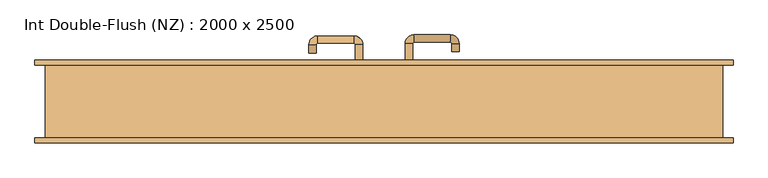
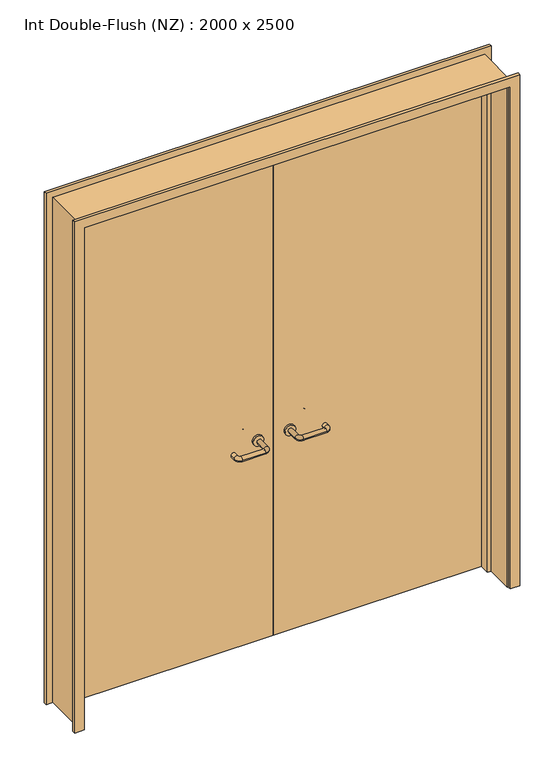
"""IFC4 building model written with IfcOpenShell, lengths in millimetres: door geometry, Int Double-Flush (NZ) : 2000 x 2500."""

from ifc_helpers import new_model, si_unit, point, frame, frame_2d, origin, place, context, project, spatial, polyline, circle_curve, ellipse_curve, trimmed, segment, composite_curve, outline, extrude, faceted_brep, source, transform, mapped, element, save
from ifc_brep_helpers import plane_surface, cylinder_surface, revolved_surface, advanced_brep


def int_double_flush_nz_2000_x_2500_d3729d4c(model_context):
    return source(origin(), model_context, "Body", "SolidModel", [
        extrude(outline(polyline([(2519.0, -1019.0), (0.0, -1019.0), (0.0, -1000.0), (2500.0, -1000.0), (2500.0, 1000.0), (0.0, 1000.0), (0.0, 1019.0), (2519.0, 1019.0), (2519.0, -1019.0)])), frame((0.0, -110.0, 0.0), z_axis=(0.0, 1.0, 0.0), x_axis=(0.0, 0.0, 1.0)), (0.0, 0.0, 1.0), 220.0),
        faceted_brep([(-983.2857143, 69.0, 0.0), (-983.2857143, 24.0, 0.0), (-1000.0, 24.0, 0.0), (-1000.0, 69.0, 0.0), (-983.2857143, 69.0, 2483.2857143), (-983.2857143, 24.0, 2483.2857143), (-1000.0, 24.0, 2500.0), (-1000.0, 69.0, 2500.0), (983.2857143, 69.0, 0.0), (1000.0, 69.0, 0.0), (1000.0, 24.0, 0.0), (983.2857143, 24.0, 0.0), (983.2857143, 69.0, 2483.2857143), (1000.0, 69.0, 2500.0), (1000.0, 24.0, 2500.0), (983.2857143, 24.0, 2483.2857143)], [[[0, 1, 2, 3]], [[1, 0, 4, 5]], [[2, 1, 5, 6]], [[3, 2, 6, 7]], [[0, 3, 7, 4]], [[8, 9, 10, 11]], [[12, 13, 9, 8]], [[13, 14, 10, 9]], [[14, 15, 11, 10]], [[15, 12, 8, 11]], [[5, 4, 12, 15]], [[6, 5, 15, 14]], [[7, 6, 14, 13]], [[4, 7, 13, 12]]]),
        extrude(outline(polyline([(2550.0, 1050.0), (2550.0, -1050.0), (0.0, -1050.0), (0.0, -1005.0), (2505.0, -1005.0), (2505.0, 1005.0), (0.0, 1005.0), (0.0, 1050.0), (2550.0, 1050.0)])), frame((0.0, 110.0, 0.0), z_axis=(0.0, 1.0, 0.0), x_axis=(0.0, 0.0, 1.0)), (0.0, 0.0, 1.0), 15.0),
        extrude(outline(polyline([(2550.0, -1050.0), (0.0, -1050.0), (0.0, -1005.0), (2505.0, -1005.0), (2505.0, 1005.0), (0.0, 1005.0), (0.0, 1050.0), (2550.0, 1050.0), (2550.0, -1050.0)])), frame((0.0, -125.0, 0.0), z_axis=(0.0, 1.0, 0.0), x_axis=(0.0, 0.0, 1.0)), (0.0, 0.0, 1.0), 15.0),
        extrude(outline(polyline([(-0.9250294, 72.0), (-997.0, 72.0), (-997.0, 110.0), (-0.9250294, 110.0), (-0.9250294, 72.0)])), frame((0.0, 0.0, 1.753223), z_axis=(0.0, 0.0, 1.0), x_axis=(1.0, 0.0, 0.0)), (0.0, 0.0, 1.0), 2495.246777),
        extrude(outline(polyline([(997.0, 72.0), (-0.9250294, 72.0), (-0.9250294, 110.0), (997.0, 110.0), (997.0, 72.0)])), frame((0.0, 0.0, 1.753223), z_axis=(0.0, 0.0, 1.0), x_axis=(1.0, 0.0, 0.0)), (0.0, 0.0, 1.0), 2495.246777),
        extrude(outline(polyline([(2519.0, -1019.0), (0.0, -1019.0), (0.0, -1000.0), (2500.0, -1000.0), (2500.0, 1000.0), (0.0, 1000.0), (0.0, 1019.0), (2519.0, 1019.0), (2519.0, -1019.0)])), frame((0.0, -110.0, 0.0), z_axis=(0.0, 1.0, 0.0), x_axis=(0.0, 0.0, 1.0)), (0.0, 0.0, 1.0), 220.0),
        advanced_brep(
        [(64.0, 62.0, 1003.0), (86.0, 62.0, 1003.0), (64.0, 6.6474631, 1003.0), (86.0, 6.6474631, 1003.0), (90.0, 2.6474631, 1003.0), (90.0, -19.3525369, 1003.0), (200.0, -19.3525369, 1003.0), (200.0, 2.6474631, 1003.0), (204.0, 6.6474631, 1003.0), (226.0, 6.6474631, 1003.0), (226.0, 24.0, 1003.0), (204.0, 24.0, 1003.0)],
        [
            (0, 1, circle_curve(frame((75.0, 62.0, 1003.0), z_axis=(0.0, 1.0, 0.0), x_axis=(1.0, 0.0, 0.0)), 11.0)),
            (1, 0, circle_curve(frame((75.0, 62.0, 1003.0), z_axis=(0.0, 1.0, 0.0), x_axis=(1.0, 0.0, 0.0)), 11.0)),
            (0, 2),
            (2, 3, circle_curve(frame((75.0, 6.6474631, 1003.0), z_axis=(0.0, 1.0, 0.0), x_axis=(1.0, 0.0, 0.0)), 11.0)),
            (3, 1),
            (3, 2, circle_curve(frame((75.0, 6.6474631, 1003.0), z_axis=(0.0, 1.0, 0.0), x_axis=(1.0, 0.0, 0.0)), 11.0)),
            (4, 3, circle_curve(frame((90.0, 6.6474631, 1003.0), z_axis=(0.0, 0.0, -1.0), x_axis=(-1.0, 0.0, 0.0)), 4.0)),
            (2, 5, circle_curve(frame((90.0, 6.6474631, 1003.0), z_axis=(0.0, 0.0, 1.0), x_axis=(-1.0, 0.0, 0.0)), 26.0)),
            (5, 4, circle_curve(frame((90.0, -8.3525369, 1003.0), z_axis=(-1.0, 0.0, 0.0), x_axis=(0.0, 1.0, 0.0)), 11.0)),
            (4, 5, circle_curve(frame((90.0, -8.3525369, 1003.0), z_axis=(-1.0, 0.0, 0.0), x_axis=(0.0, 1.0, 0.0)), 11.0)),
            (5, 6),
            (6, 7, circle_curve(frame((200.0, -8.3525369, 1003.0), z_axis=(-1.0, 0.0, 0.0), x_axis=(0.0, 1.0, 0.0)), 11.0)),
            (7, 4),
            (7, 6, circle_curve(frame((200.0, -8.3525369, 1003.0), z_axis=(-1.0, 0.0, 0.0), x_axis=(0.0, 1.0, 0.0)), 11.0)),
            (8, 7, circle_curve(frame((200.0, 6.6474631, 1003.0), z_axis=(0.0, 0.0, -1.0), x_axis=(0.0, -1.0, 0.0)), 4.0)),
            (6, 9, circle_curve(frame((200.0, 6.6474631, 1003.0), z_axis=(0.0, 0.0, 1.0), x_axis=(0.0, -1.0, 0.0)), 26.0)),
            (9, 8, circle_curve(frame((215.0, 6.6474631, 1003.0), z_axis=(0.0, -1.0, 0.0), x_axis=(-1.0, 0.0, 0.0)), 11.0)),
            (8, 9, circle_curve(frame((215.0, 6.6474631, 1003.0), z_axis=(0.0, -1.0, 0.0), x_axis=(-1.0, 0.0, 0.0)), 11.0)),
            (10, 11, circle_curve(frame((215.0, 24.0, 1003.0), z_axis=(0.0, 1.0, 0.0), x_axis=(-1.0, 0.0, 0.0)), 11.0)),
            (11, 10, circle_curve(frame((215.0, 24.0, 1003.0), z_axis=(0.0, 1.0, 0.0), x_axis=(-1.0, 0.0, 0.0)), 11.0)),
            (9, 10),
            (11, 8),
        ],
        [
            plane_surface(frame((64.0, 62.0, 1003.0), z_axis=(0.0, 1.0, 0.0), x_axis=(0.0, 0.0, -1.0))),
            cylinder_surface(frame((75.0, 62.0, 1003.0), z_axis=(0.0, 1.0, 0.0), x_axis=(1.0, 0.0, 0.0)), 11.0),
            revolved_surface(trimmed(ellipse_curve(frame((75.0, 6.6474631, 1003.0), z_axis=(0.0, 1.0, 0.0), x_axis=(1.0, 0.0, 0.0)), 11.0, 11.0), [point((64.0, 6.6474631, 1003.0))], [point((86.0, 6.6474631, 1003.0))], True, "CARTESIAN"), (90.0, 6.6474631, 1003.0), (0.0, 0.0, 1.0)),
            revolved_surface(trimmed(ellipse_curve(frame((75.0, 6.6474631, 1003.0), z_axis=(0.0, 1.0, 0.0), x_axis=(1.0, 0.0, 0.0)), 11.0, 11.0), [point((86.0, 6.6474631, 1003.0))], [point((64.0, 6.6474631, 1003.0))], True, "CARTESIAN"), (90.0, 6.6474631, 1003.0), (0.0, 0.0, 1.0)),
            cylinder_surface(frame((90.0, -8.3525369, 1003.0), z_axis=(-1.0, 0.0, 0.0), x_axis=(0.0, 1.0, 0.0)), 11.0),
            revolved_surface(trimmed(ellipse_curve(frame((200.0, -8.3525369, 1003.0), z_axis=(-1.0, 0.0, 0.0), x_axis=(0.0, 1.0, 0.0)), 11.0, 11.0), [point((200.0, -19.3525369, 1003.0))], [point((200.0, 2.6474631, 1003.0))], True, "CARTESIAN"), (200.0, 6.6474631, 1003.0), (0.0, 0.0, 1.0)),
            revolved_surface(trimmed(ellipse_curve(frame((200.0, -8.3525369, 1003.0), z_axis=(-1.0, 0.0, 0.0), x_axis=(0.0, 1.0, 0.0)), 11.0, 11.0), [point((200.0, 2.6474631, 1003.0))], [point((200.0, -19.3525369, 1003.0))], True, "CARTESIAN"), (200.0, 6.6474631, 1003.0), (0.0, 0.0, 1.0)),
            plane_surface(frame((204.0, 24.0, 1003.0), z_axis=(0.0, 1.0, 0.0), x_axis=(0.0, 0.0, 1.0))),
            cylinder_surface(frame((215.0, 6.6474631, 1003.0), z_axis=(0.0, -1.0, 0.0), x_axis=(-1.0, 0.0, 0.0)), 11.0),
        ],
        [
            (0, [[1, 2]]),
            (1, [[-1, 3, 4, 5]]),
            (1, [[-2, -5, 6, -3]]),
            (2, [[7, -4, 8, 9]]),
            (3, [[-8, -6, -7, 10]]),
            (4, [[-9, 11, 12, 13]]),
            (4, [[-10, -13, 14, -11]]),
            (5, [[15, -12, 16, 17]]),
            (6, [[-16, -14, -15, 18]]),
            (7, [[19, 20]]),
            (8, [[-17, 21, -20, 22]]),
            (8, [[-18, -22, -19, -21]]),
        ],
    ),
        extrude(outline(composite_curve([segment(trimmed(circle_curve(frame_2d((1003.0, 75.0)), 25.0), [point((1003.0, 50.0))], [point((1003.0, 100.0))], False, "CARTESIAN"), True, "CONTINUOUS"), segment(trimmed(circle_curve(frame_2d((1003.0, 75.0)), 25.0), [point((1003.0, 100.0))], [point((1003.0, 50.0))], False, "CARTESIAN"), True, "CONTINUOUS")], self_intersect=False)), frame((0.0, 62.0, 0.0), z_axis=(0.0, 1.0, 0.0), x_axis=(0.0, 0.0, 1.0)), (0.0, 0.0, 1.0), 10.0),
        advanced_brep(
        [(86.0, 120.0, 1003.0), (64.0, 120.0, 1003.0), (86.0, 175.0, 1003.0), (64.0, 175.0, 1003.0), (90.0, 201.0, 1003.0), (90.0, 179.0, 1003.0), (200.0, 179.0, 1003.0), (200.0, 201.0, 1003.0), (226.0, 175.0, 1003.0), (204.0, 175.0, 1003.0), (204.0, 150.0, 1003.0), (226.0, 150.0, 1003.0)],
        [
            (0, 1, circle_curve(frame((75.0, 120.0, 1003.0), z_axis=(0.0, -1.0, 0.0), x_axis=(-1.0, 0.0, 0.0)), 11.0)),
            (1, 0, circle_curve(frame((75.0, 120.0, 1003.0), z_axis=(0.0, -1.0, 0.0), x_axis=(-1.0, 0.0, 0.0)), 11.0)),
            (0, 2),
            (2, 3, circle_curve(frame((75.0, 175.0, 1003.0), z_axis=(0.0, -1.0, 0.0), x_axis=(-1.0, 0.0, 0.0)), 11.0)),
            (3, 1),
            (3, 2, circle_curve(frame((75.0, 175.0, 1003.0), z_axis=(0.0, -1.0, 0.0), x_axis=(-1.0, 0.0, 0.0)), 11.0)),
            (4, 3, circle_curve(frame((90.0, 175.0, 1003.0), z_axis=(0.0, 0.0, 1.0), x_axis=(-1.0, 0.0, 0.0)), 26.0)),
            (2, 5, circle_curve(frame((90.0, 175.0, 1003.0), z_axis=(0.0, 0.0, -1.0), x_axis=(-1.0, 0.0, 0.0)), 4.0)),
            (5, 4, circle_curve(frame((90.0, 190.0, 1003.0), z_axis=(-1.0, 0.0, 0.0), x_axis=(0.0, 1.0, 0.0)), 11.0)),
            (4, 5, circle_curve(frame((90.0, 190.0, 1003.0), z_axis=(-1.0, 0.0, 0.0), x_axis=(0.0, 1.0, 0.0)), 11.0)),
            (5, 6),
            (6, 7, circle_curve(frame((200.0, 190.0, 1003.0), z_axis=(-1.0, 0.0, 0.0), x_axis=(0.0, 1.0, 0.0)), 11.0)),
            (7, 4),
            (7, 6, circle_curve(frame((200.0, 190.0, 1003.0), z_axis=(-1.0, 0.0, 0.0), x_axis=(0.0, 1.0, 0.0)), 11.0)),
            (8, 7, circle_curve(frame((200.0, 175.0, 1003.0), z_axis=(0.0, 0.0, 1.0), x_axis=(0.0, 1.0, 0.0)), 26.0)),
            (6, 9, circle_curve(frame((200.0, 175.0, 1003.0), z_axis=(0.0, 0.0, -1.0), x_axis=(0.0, 1.0, 0.0)), 4.0)),
            (9, 8, circle_curve(frame((215.0, 175.0, 1003.0), z_axis=(0.0, 1.0, 0.0), x_axis=(1.0, 0.0, 0.0)), 11.0)),
            (8, 9, circle_curve(frame((215.0, 175.0, 1003.0), z_axis=(0.0, 1.0, 0.0), x_axis=(1.0, 0.0, 0.0)), 11.0)),
            (10, 11, circle_curve(frame((215.0, 150.0, 1003.0), z_axis=(0.0, -1.0, 0.0), x_axis=(1.0, 0.0, 0.0)), 11.0)),
            (11, 10, circle_curve(frame((215.0, 150.0, 1003.0), z_axis=(0.0, -1.0, 0.0), x_axis=(1.0, 0.0, 0.0)), 11.0)),
            (9, 10),
            (11, 8),
        ],
        [
            plane_surface(frame((64.0, 120.0, 1003.0), z_axis=(0.0, -1.0, 0.0), x_axis=(0.0, 0.0, 1.0))),
            cylinder_surface(frame((75.0, 120.0, 1003.0), z_axis=(0.0, -1.0, 0.0), x_axis=(-1.0, 0.0, 0.0)), 11.0),
            revolved_surface(trimmed(ellipse_curve(frame((75.0, 175.0, 1003.0), z_axis=(0.0, -1.0, 0.0), x_axis=(-1.0, 0.0, 0.0)), 11.0, 11.0), [point((86.0, 175.0, 1003.0))], [point((64.0, 175.0, 1003.0))], True, "CARTESIAN"), (90.0, 175.0, 1003.0), (0.0, 0.0, -1.0)),
            revolved_surface(trimmed(ellipse_curve(frame((75.0, 175.0, 1003.0), z_axis=(0.0, -1.0, 0.0), x_axis=(-1.0, 0.0, 0.0)), 11.0, 11.0), [point((64.0, 175.0, 1003.0))], [point((86.0, 175.0, 1003.0))], True, "CARTESIAN"), (90.0, 175.0, 1003.0), (0.0, 0.0, -1.0)),
            cylinder_surface(frame((90.0, 190.0, 1003.0), z_axis=(-1.0, 0.0, 0.0), x_axis=(0.0, 1.0, 0.0)), 11.0),
            revolved_surface(trimmed(ellipse_curve(frame((200.0, 190.0, 1003.0), z_axis=(-1.0, 0.0, 0.0), x_axis=(0.0, 1.0, 0.0)), 11.0, 11.0), [point((200.0, 179.0, 1003.0))], [point((200.0, 201.0, 1003.0))], True, "CARTESIAN"), (200.0, 175.0, 1003.0), (0.0, 0.0, -1.0)),
            revolved_surface(trimmed(ellipse_curve(frame((200.0, 190.0, 1003.0), z_axis=(-1.0, 0.0, 0.0), x_axis=(0.0, 1.0, 0.0)), 11.0, 11.0), [point((200.0, 201.0, 1003.0))], [point((200.0, 179.0, 1003.0))], True, "CARTESIAN"), (200.0, 175.0, 1003.0), (0.0, 0.0, -1.0)),
            plane_surface(frame((204.0, 150.0, 1003.0), z_axis=(0.0, -1.0, 0.0), x_axis=(0.0, 0.0, -1.0))),
            cylinder_surface(frame((215.0, 175.0, 1003.0), z_axis=(0.0, 1.0, 0.0), x_axis=(1.0, 0.0, 0.0)), 11.0),
        ],
        [
            (0, [[1, 2]]),
            (1, [[-1, 3, 4, 5]]),
            (1, [[-2, -5, 6, -3]]),
            (2, [[7, -4, 8, 9]]),
            (3, [[-8, -6, -7, 10]]),
            (4, [[-9, 11, 12, 13]]),
            (4, [[-10, -13, 14, -11]]),
            (5, [[15, -12, 16, 17]]),
            (6, [[-16, -14, -15, 18]]),
            (7, [[19, 20]]),
            (8, [[-17, 21, -20, 22]]),
            (8, [[-18, -22, -19, -21]]),
        ],
    ),
        extrude(outline(composite_curve([segment(trimmed(circle_curve(frame_2d((1003.0, 75.0)), 25.0), [point((1003.0, 100.0))], [point((1003.0, 50.0))], False, "CARTESIAN"), True, "CONTINUOUS"), segment(trimmed(circle_curve(frame_2d((1003.0, 75.0)), 25.0), [point((1003.0, 50.0))], [point((1003.0, 100.0))], False, "CARTESIAN"), True, "CONTINUOUS")], self_intersect=False)), frame((0.0, 110.0, 0.0), z_axis=(0.0, 1.0, 0.0), x_axis=(0.0, 0.0, 1.0)), (0.0, 0.0, 1.0), 10.0),
        advanced_brep(
        [(-86.0, 55.6886121, 1003.0), (-64.0, 55.6886121, 1003.0), (-86.0, 0.2779553, 1003.0), (-64.0, 0.2779553, 1003.0), (-90.0, -25.7220447, 1003.0), (-90.0, -3.7220447, 1003.0), (-200.0, -3.7220447, 1003.0), (-200.0, -25.7220447, 1003.0), (-226.0, 0.2779553, 1003.0), (-204.0, 0.2779553, 1003.0), (-204.0, 25.2779553, 1003.0), (-226.0, 25.2779553, 1003.0)],
        [
            (0, 1, circle_curve(frame((-75.0, 55.6886121, 1003.0), z_axis=(0.0, 1.0, 0.0), x_axis=(1.0, 0.0, 0.0)), 11.0)),
            (1, 0, circle_curve(frame((-75.0, 55.6886121, 1003.0), z_axis=(0.0, 1.0, 0.0), x_axis=(1.0, 0.0, 0.0)), 11.0)),
            (0, 2),
            (2, 3, circle_curve(frame((-75.0, 0.2779553, 1003.0), z_axis=(0.0, 1.0, 0.0), x_axis=(1.0, 0.0, 0.0)), 11.0)),
            (3, 1),
            (3, 2, circle_curve(frame((-75.0, 0.2779553, 1003.0), z_axis=(0.0, 1.0, 0.0), x_axis=(1.0, 0.0, 0.0)), 11.0)),
            (4, 3, circle_curve(frame((-90.0, 0.2779553, 1003.0), z_axis=(0.0, 0.0, 1.0), x_axis=(1.0, 0.0, 0.0)), 26.0)),
            (2, 5, circle_curve(frame((-90.0, 0.2779553, 1003.0), z_axis=(0.0, 0.0, -1.0), x_axis=(1.0, 0.0, 0.0)), 4.0)),
            (5, 4, circle_curve(frame((-90.0, -14.7220447, 1003.0), z_axis=(1.0, 0.0, 0.0), x_axis=(0.0, -1.0, 0.0)), 11.0)),
            (4, 5, circle_curve(frame((-90.0, -14.7220447, 1003.0), z_axis=(1.0, 0.0, 0.0), x_axis=(0.0, -1.0, 0.0)), 11.0)),
            (5, 6),
            (6, 7, circle_curve(frame((-200.0, -14.7220447, 1003.0), z_axis=(1.0, 0.0, 0.0), x_axis=(0.0, -1.0, 0.0)), 11.0)),
            (7, 4),
            (7, 6, circle_curve(frame((-200.0, -14.7220447, 1003.0), z_axis=(1.0, 0.0, 0.0), x_axis=(0.0, -1.0, 0.0)), 11.0)),
            (8, 7, circle_curve(frame((-200.0, 0.2779553, 1003.0), z_axis=(0.0, 0.0, 1.0), x_axis=(0.0, -1.0, 0.0)), 26.0)),
            (6, 9, circle_curve(frame((-200.0, 0.2779553, 1003.0), z_axis=(0.0, 0.0, -1.0), x_axis=(0.0, -1.0, 0.0)), 4.0)),
            (9, 8, circle_curve(frame((-215.0, 0.2779553, 1003.0), z_axis=(0.0, -1.0, 0.0), x_axis=(-1.0, 0.0, 0.0)), 11.0)),
            (8, 9, circle_curve(frame((-215.0, 0.2779553, 1003.0), z_axis=(0.0, -1.0, 0.0), x_axis=(-1.0, 0.0, 0.0)), 11.0)),
            (10, 11, circle_curve(frame((-215.0, 25.2779553, 1003.0), z_axis=(0.0, 1.0, 0.0), x_axis=(-1.0, 0.0, 0.0)), 11.0)),
            (11, 10, circle_curve(frame((-215.0, 25.2779553, 1003.0), z_axis=(0.0, 1.0, 0.0), x_axis=(-1.0, 0.0, 0.0)), 11.0)),
            (9, 10),
            (11, 8),
        ],
        [
            plane_surface(frame((-86.0, 55.6886121, 1003.0), z_axis=(0.0, 1.0, 0.0), x_axis=(0.0, 0.0, -1.0))),
            cylinder_surface(frame((-75.0, 55.6886121, 1003.0), z_axis=(0.0, 1.0, 0.0), x_axis=(1.0, 0.0, 0.0)), 11.0),
            revolved_surface(trimmed(ellipse_curve(frame((-75.0, 0.2779553, 1003.0), z_axis=(0.0, 1.0, 0.0), x_axis=(1.0, 0.0, 0.0)), 11.0, 11.0), [point((-86.0, 0.2779553, 1003.0))], [point((-64.0, 0.2779553, 1003.0))], True, "CARTESIAN"), (-90.0, 0.2779553, 1003.0), (0.0, 0.0, -1.0)),
            revolved_surface(trimmed(ellipse_curve(frame((-75.0, 0.2779553, 1003.0), z_axis=(0.0, 1.0, 0.0), x_axis=(1.0, 0.0, 0.0)), 11.0, 11.0), [point((-64.0, 0.2779553, 1003.0))], [point((-86.0, 0.2779553, 1003.0))], True, "CARTESIAN"), (-90.0, 0.2779553, 1003.0), (0.0, 0.0, -1.0)),
            cylinder_surface(frame((-90.0, -14.7220447, 1003.0), z_axis=(1.0, 0.0, 0.0), x_axis=(0.0, -1.0, 0.0)), 11.0),
            revolved_surface(trimmed(ellipse_curve(frame((-200.0, -14.7220447, 1003.0), z_axis=(1.0, 0.0, 0.0), x_axis=(0.0, -1.0, 0.0)), 11.0, 11.0), [point((-200.0, -3.7220447, 1003.0))], [point((-200.0, -25.7220447, 1003.0))], True, "CARTESIAN"), (-200.0, 0.2779553, 1003.0), (0.0, 0.0, -1.0)),
            revolved_surface(trimmed(ellipse_curve(frame((-200.0, -14.7220447, 1003.0), z_axis=(1.0, 0.0, 0.0), x_axis=(0.0, -1.0, 0.0)), 11.0, 11.0), [point((-200.0, -25.7220447, 1003.0))], [point((-200.0, -3.7220447, 1003.0))], True, "CARTESIAN"), (-200.0, 0.2779553, 1003.0), (0.0, 0.0, -1.0)),
            plane_surface(frame((-226.0, 25.2779553, 1003.0), z_axis=(0.0, 1.0, 0.0), x_axis=(0.0, 0.0, 1.0))),
            cylinder_surface(frame((-215.0, 0.2779553, 1003.0), z_axis=(0.0, -1.0, 0.0), x_axis=(-1.0, 0.0, 0.0)), 11.0),
        ],
        [
            (0, [[1, 2]]),
            (1, [[-1, 3, 4, 5]]),
            (1, [[-2, -5, 6, -3]]),
            (2, [[7, -4, 8, 9]]),
            (3, [[-8, -6, -7, 10]]),
            (4, [[-9, 11, 12, 13]]),
            (4, [[-10, -13, 14, -11]]),
            (5, [[15, -12, 16, 17]]),
            (6, [[-16, -14, -15, 18]]),
            (7, [[19, 20]]),
            (8, [[-17, 21, -20, 22]]),
            (8, [[-18, -22, -19, -21]]),
        ],
    ),
        extrude(outline(composite_curve([segment(trimmed(circle_curve(frame_2d((1003.0, -75.0)), 25.0), [point((1003.0, -100.0))], [point((1003.0, -50.0))], False, "CARTESIAN"), True, "CONTINUOUS"), segment(trimmed(circle_curve(frame_2d((1003.0, -75.0)), 25.0), [point((1003.0, -50.0))], [point((1003.0, -100.0))], False, "CARTESIAN"), True, "CONTINUOUS")], self_intersect=False)), frame((0.0, 61.6886121, 0.0), z_axis=(0.0, 1.0, 0.0), x_axis=(0.0, 0.0, 1.0)), (0.0, 0.0, 1.0), 10.3113879),
        advanced_brep(
        [(-64.0, 116.5143417, 1003.0), (-86.0, 116.5143417, 1003.0), (-64.0, 171.6104656, 1003.0), (-86.0, 171.6104656, 1003.0), (-90.0, 175.6104656, 1003.0), (-90.0, 197.6104656, 1003.0), (-200.0, 197.6104656, 1003.0), (-200.0, 175.6104656, 1003.0), (-204.0, 171.6104656, 1003.0), (-226.0, 171.6104656, 1003.0), (-226.0, 146.6104656, 1003.0), (-204.0, 146.6104656, 1003.0)],
        [
            (0, 1, circle_curve(frame((-75.0, 116.5143417, 1003.0), z_axis=(0.0, -1.0, 0.0), x_axis=(-1.0, 0.0, 0.0)), 11.0)),
            (1, 0, circle_curve(frame((-75.0, 116.5143417, 1003.0), z_axis=(0.0, -1.0, 0.0), x_axis=(-1.0, 0.0, 0.0)), 11.0)),
            (0, 2),
            (2, 3, circle_curve(frame((-75.0, 171.6104656, 1003.0), z_axis=(0.0, -1.0, 0.0), x_axis=(-1.0, 0.0, 0.0)), 11.0)),
            (3, 1),
            (3, 2, circle_curve(frame((-75.0, 171.6104656, 1003.0), z_axis=(0.0, -1.0, 0.0), x_axis=(-1.0, 0.0, 0.0)), 11.0)),
            (4, 3, circle_curve(frame((-90.0, 171.6104656, 1003.0), z_axis=(0.0, 0.0, -1.0), x_axis=(1.0, 0.0, 0.0)), 4.0)),
            (2, 5, circle_curve(frame((-90.0, 171.6104656, 1003.0), z_axis=(0.0, 0.0, 1.0), x_axis=(1.0, 0.0, 0.0)), 26.0)),
            (5, 4, circle_curve(frame((-90.0, 186.6104656, 1003.0), z_axis=(1.0, 0.0, 0.0), x_axis=(0.0, -1.0, 0.0)), 11.0)),
            (4, 5, circle_curve(frame((-90.0, 186.6104656, 1003.0), z_axis=(1.0, 0.0, 0.0), x_axis=(0.0, -1.0, 0.0)), 11.0)),
            (5, 6),
            (6, 7, circle_curve(frame((-200.0, 186.6104656, 1003.0), z_axis=(1.0, 0.0, 0.0), x_axis=(0.0, -1.0, 0.0)), 11.0)),
            (7, 4),
            (7, 6, circle_curve(frame((-200.0, 186.6104656, 1003.0), z_axis=(1.0, 0.0, 0.0), x_axis=(0.0, -1.0, 0.0)), 11.0)),
            (8, 7, circle_curve(frame((-200.0, 171.6104656, 1003.0), z_axis=(0.0, 0.0, -1.0), x_axis=(0.0, 1.0, 0.0)), 4.0)),
            (6, 9, circle_curve(frame((-200.0, 171.6104656, 1003.0), z_axis=(0.0, 0.0, 1.0), x_axis=(0.0, 1.0, 0.0)), 26.0)),
            (9, 8, circle_curve(frame((-215.0, 171.6104656, 1003.0), z_axis=(0.0, 1.0, 0.0), x_axis=(1.0, 0.0, 0.0)), 11.0)),
            (8, 9, circle_curve(frame((-215.0, 171.6104656, 1003.0), z_axis=(0.0, 1.0, 0.0), x_axis=(1.0, 0.0, 0.0)), 11.0)),
            (10, 11, circle_curve(frame((-215.0, 146.6104656, 1003.0), z_axis=(0.0, -1.0, 0.0), x_axis=(1.0, 0.0, 0.0)), 11.0)),
            (11, 10, circle_curve(frame((-215.0, 146.6104656, 1003.0), z_axis=(0.0, -1.0, 0.0), x_axis=(1.0, 0.0, 0.0)), 11.0)),
            (9, 10),
            (11, 8),
        ],
        [
            plane_surface(frame((-86.0, 116.5143417, 1003.0), z_axis=(0.0, -1.0, 0.0), x_axis=(0.0, 0.0, 1.0))),
            cylinder_surface(frame((-75.0, 116.5143417, 1003.0), z_axis=(0.0, -1.0, 0.0), x_axis=(-1.0, 0.0, 0.0)), 11.0),
            revolved_surface(trimmed(ellipse_curve(frame((-75.0, 171.6104656, 1003.0), z_axis=(0.0, -1.0, 0.0), x_axis=(-1.0, 0.0, 0.0)), 11.0, 11.0), [point((-64.0, 171.6104656, 1003.0))], [point((-86.0, 171.6104656, 1003.0))], True, "CARTESIAN"), (-90.0, 171.6104656, 1003.0), (0.0, 0.0, 1.0)),
            revolved_surface(trimmed(ellipse_curve(frame((-75.0, 171.6104656, 1003.0), z_axis=(0.0, -1.0, 0.0), x_axis=(-1.0, 0.0, 0.0)), 11.0, 11.0), [point((-86.0, 171.6104656, 1003.0))], [point((-64.0, 171.6104656, 1003.0))], True, "CARTESIAN"), (-90.0, 171.6104656, 1003.0), (0.0, 0.0, 1.0)),
            cylinder_surface(frame((-90.0, 186.6104656, 1003.0), z_axis=(1.0, 0.0, 0.0), x_axis=(0.0, -1.0, 0.0)), 11.0),
            revolved_surface(trimmed(ellipse_curve(frame((-200.0, 186.6104656, 1003.0), z_axis=(1.0, 0.0, 0.0), x_axis=(0.0, -1.0, 0.0)), 11.0, 11.0), [point((-200.0, 197.6104656, 1003.0))], [point((-200.0, 175.6104656, 1003.0))], True, "CARTESIAN"), (-200.0, 171.6104656, 1003.0), (0.0, 0.0, 1.0)),
            revolved_surface(trimmed(ellipse_curve(frame((-200.0, 186.6104656, 1003.0), z_axis=(1.0, 0.0, 0.0), x_axis=(0.0, -1.0, 0.0)), 11.0, 11.0), [point((-200.0, 175.6104656, 1003.0))], [point((-200.0, 197.6104656, 1003.0))], True, "CARTESIAN"), (-200.0, 171.6104656, 1003.0), (0.0, 0.0, 1.0)),
            plane_surface(frame((-226.0, 146.6104656, 1003.0), z_axis=(0.0, -1.0, 0.0), x_axis=(0.0, 0.0, -1.0))),
            cylinder_surface(frame((-215.0, 171.6104656, 1003.0), z_axis=(0.0, 1.0, 0.0), x_axis=(1.0, 0.0, 0.0)), 11.0),
        ],
        [
            (0, [[1, 2]]),
            (1, [[-1, 3, 4, 5]]),
            (1, [[-2, -5, 6, -3]]),
            (2, [[7, -4, 8, 9]]),
            (3, [[-8, -6, -7, 10]]),
            (4, [[-9, 11, 12, 13]]),
            (4, [[-10, -13, 14, -11]]),
            (5, [[15, -12, 16, 17]]),
            (6, [[-16, -14, -15, 18]]),
            (7, [[19, 20]]),
            (8, [[-17, 21, -20, 22]]),
            (8, [[-18, -22, -19, -21]]),
        ],
    ),
        extrude(outline(composite_curve([segment(trimmed(circle_curve(frame_2d((1003.0, -75.0)), 25.0), [point((1003.0, -50.0))], [point((1003.0, -100.0))], False, "CARTESIAN"), True, "CONTINUOUS"), segment(trimmed(circle_curve(frame_2d((1003.0, -75.0)), 25.0), [point((1003.0, -100.0))], [point((1003.0, -50.0))], False, "CARTESIAN"), True, "CONTINUOUS")], self_intersect=False)), frame((0.0, 110.0, 0.0), z_axis=(0.0, 1.0, 0.0), x_axis=(0.0, 0.0, 1.0)), (0.0, 0.0, 1.0), 9.5143417),
    ])


if __name__ == "__main__":
    model = new_model("IFC4")
    model_context = context("Model", 3, world=origin())
    ifc_project = project(units=[si_unit("LENGTHUNIT", "METRE", prefix="MILLI")], contexts=[model_context])
    site = spatial("IfcSite", under=ifc_project)
    building = spatial("IfcBuilding", under=site)
    placement = place(None, origin())
    int_double_flush_nz_2000_x_2500_shape = int_double_flush_nz_2000_x_2500_d3729d4c(model_context)
    element("IfcDoor", 1, ObjectType="Int Double-Flush (NZ) : 2000 x 2500", at=placement, inside=building, context=model_context, shape_type="MappedRepresentation", body=[
        mapped(int_double_flush_nz_2000_x_2500_shape, transform((0.0, 0.0, 0.0), x_axis=(1.0, 0.0, 0.0), y_axis=(0.0, 1.0, 0.0), z_axis=(0.0, 0.0, 1.0))),
    ])
    save(model, "model.ifc")
